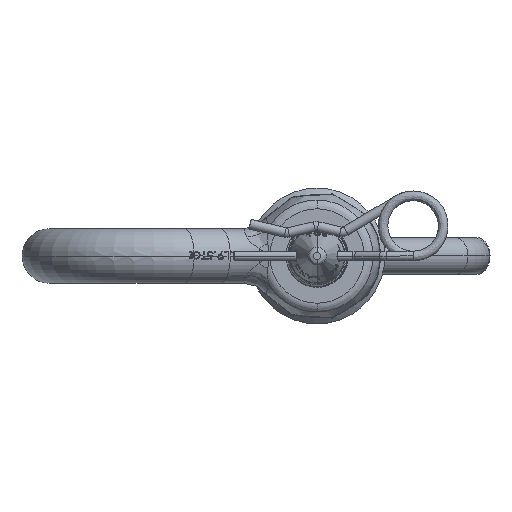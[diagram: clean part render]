
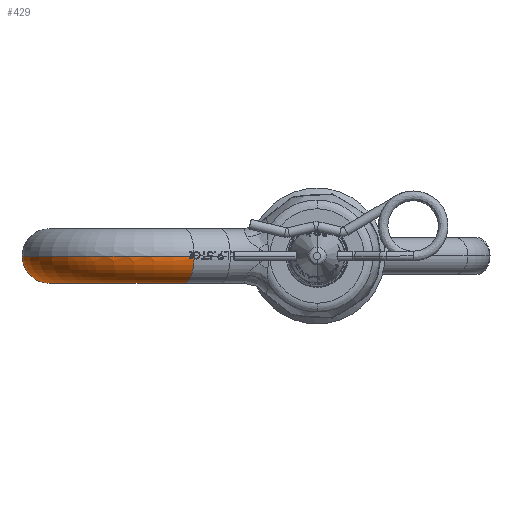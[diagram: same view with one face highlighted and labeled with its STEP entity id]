
A CAD part, left-side view. The second image highlights one B-rep face of the part: STEP entity #429.
In plain terms, the highlighted toroidal (fillet/blend) face has major radius 51.5 mm and minor radius 14 mm.
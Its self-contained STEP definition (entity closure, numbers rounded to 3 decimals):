
#429=ADVANCED_FACE('',(#1728),#1729,.T.);
#1728=FACE_OUTER_BOUND('',#5339,.T.);
#1729=TOROIDAL_SURFACE('',#5340,51.5,14.0);
#5339=EDGE_LOOP('',(#22639,#22640,#22641,#22642,#22643,#22644,#22645,#22646,#22647));
#5340=AXIS2_PLACEMENT_3D('',#22648,#22649,#22650);
#22639=ORIENTED_EDGE('',*,*,#27913,.T.);
#22640=ORIENTED_EDGE('',*,*,#28266,.T.);
#22641=ORIENTED_EDGE('',*,*,#28671,.T.);
#22642=ORIENTED_EDGE('',*,*,#28268,.T.);
#22643=ORIENTED_EDGE('',*,*,#28669,.T.);
#22644=ORIENTED_EDGE('',*,*,#27917,.T.);
#22645=ORIENTED_EDGE('',*,*,#28148,.T.);
#22646=ORIENTED_EDGE('',*,*,#27915,.T.);
#22647=ORIENTED_EDGE('',*,*,#28761,.F.);
#22648=CARTESIAN_POINT('',(0.0,0.0,0.0));
#22649=DIRECTION('',(0.0,0.0,-1.0));
#22650=DIRECTION('',(0.,1.0,0.0));
#27913=EDGE_CURVE('',#30585,#30586,#30587,.T.);
#27915=EDGE_CURVE('',#30590,#30588,#30591,.T.);
#27917=EDGE_CURVE('',#30594,#30592,#30595,.T.);
#28148=EDGE_CURVE('',#30592,#30590,#31047,.T.);
#28266=EDGE_CURVE('',#30586,#31271,#31273,.T.);
#28268=EDGE_CURVE('',#31277,#31274,#31278,.T.);
#28669=EDGE_CURVE('',#31274,#30594,#31902,.T.);
#28671=EDGE_CURVE('',#31271,#31277,#31904,.T.);
#28761=EDGE_CURVE('',#30585,#30588,#32018,.T.);
#30585=VERTEX_POINT('',#34979);
#30586=VERTEX_POINT('',#34980);
#30587=CIRCLE('',#34981,65.5);
#30588=VERTEX_POINT('',#34982);
#30590=VERTEX_POINT('',#34984);
#30591=CIRCLE('',#34985,37.5);
#30592=VERTEX_POINT('',#34986);
#30594=VERTEX_POINT('',#34988);
#30595=CIRCLE('',#34989,65.5);
#31047=CIRCLE('',#37215,14.0);
#31271=VERTEX_POINT('',#38249);
#31273=B_SPLINE_CURVE_WITH_KNOTS('',3,(#38252,#38253,#38254,#38255,#38256,#38257,#38258,#38259,#38260,#38261,#38262,#38263,#38264,#38265,#38266,#38267,#38268,#38269,#38270,#38271,#38272,#38273,#38274,#38275,#38276,#38277,#38278,#38279,#38280,#38281,#38282,#38283),.UNSPECIFIED.,.F.,.F.,(4,2,2,2,2,2,2,2,2,2,2,2,2,2,2,4),(-0.899,-0.895,-0.876,-0.858,-0.833,-0.784,-0.714,-0.642,-0.568,-0.499,-0.433,-0.355,-0.308,-0.284,-0.265,-0.246),.UNSPECIFIED.);
#31274=VERTEX_POINT('',#38284);
#31277=VERTEX_POINT('',#38288);
#31278=B_SPLINE_CURVE_WITH_KNOTS('',3,(#38289,#38290,#38291,#38292,#38293,#38294,#38295,#38296,#38297,#38298,#38299,#38300,#38301,#38302,#38303,#38304,#38305,#38306),.UNSPECIFIED.,.F.,.F.,(4,2,2,2,2,2,2,2,4),(0.168,0.173,0.186,0.199,0.217,0.253,0.311,0.36,0.383),.UNSPECIFIED.);
#31902=B_SPLINE_CURVE_WITH_KNOTS('',3,(#42048,#42049,#42050,#42051,#42052,#42053,#42054,#42055,#42056,#42057,#42058,#42059,#42060,#42061,#42062,#42063,#42064,#42065),.UNSPECIFIED.,.F.,.F.,(4,2,2,2,2,2,2,2,4),(0.168,0.173,0.186,0.199,0.217,0.253,0.311,0.36,0.383),.UNSPECIFIED.);
#31904=CIRCLE('',#42067,13.278);
#32018=CIRCLE('',#42504,14.0);
#34979=CARTESIAN_POINT('',(-61.262,-23.177,0.));
#34980=CARTESIAN_POINT('',(-61.301,-23.076,0.));
#34981=AXIS2_PLACEMENT_3D('',#66278,#66279,#66280);
#34982=CARTESIAN_POINT('',(-35.074,-13.27,0.0));
#34984=CARTESIAN_POINT('',(0.,37.5,0.));
#34985=AXIS2_PLACEMENT_3D('',#66284,#66285,#66286);
#34986=CARTESIAN_POINT('',(0.,65.5,0.));
#34988=CARTESIAN_POINT('',(-61.498,-22.544,0.));
#34989=AXIS2_PLACEMENT_3D('',#66290,#66291,#66292);
#37215=AXIS2_PLACEMENT_3D('',#66657,#66658,#66659);
#38249=CARTESIAN_POINT('',(-61.953,-21.014,-1.497));
#38252=CARTESIAN_POINT('',(-61.85,-21.,2.249));
#38253=CARTESIAN_POINT('',(-61.846,-21.012,2.251));
#38254=CARTESIAN_POINT('',(-61.842,-21.023,2.252));
#38255=CARTESIAN_POINT('',(-61.816,-21.095,2.259));
#38256=CARTESIAN_POINT('',(-61.795,-21.155,2.263));
#38257=CARTESIAN_POINT('',(-61.754,-21.274,2.263));
#38258=CARTESIAN_POINT('',(-61.735,-21.332,2.261));
#38259=CARTESIAN_POINT('',(-61.69,-21.468,2.249));
#38260=CARTESIAN_POINT('',(-61.665,-21.545,2.238));
#38261=CARTESIAN_POINT('',(-61.593,-21.774,2.189));
#38262=CARTESIAN_POINT('',(-61.548,-21.923,2.137));
#38263=CARTESIAN_POINT('',(-61.451,-22.269,1.966));
#38264=CARTESIAN_POINT('',(-61.405,-22.455,1.828));
#38265=CARTESIAN_POINT('',(-61.331,-22.775,1.482));
#38266=CARTESIAN_POINT('',(-61.305,-22.903,1.276));
#38267=CARTESIAN_POINT('',(-61.276,-23.077,0.823));
#38268=CARTESIAN_POINT('',(-61.274,-23.119,0.58));
#38269=CARTESIAN_POINT('',(-61.29,-23.108,0.105));
#38270=CARTESIAN_POINT('',(-61.307,-23.061,-0.122));
#38271=CARTESIAN_POINT('',(-61.36,-22.892,-0.537));
#38272=CARTESIAN_POINT('',(-61.394,-22.775,-0.723));
#38273=CARTESIAN_POINT('',(-61.487,-22.46,-1.074));
#38274=CARTESIAN_POINT('',(-61.547,-22.255,-1.225));
#38275=CARTESIAN_POINT('',(-61.66,-21.89,-1.396));
#38276=CARTESIAN_POINT('',(-61.706,-21.745,-1.443));
#38277=CARTESIAN_POINT('',(-61.779,-21.522,-1.488));
#38278=CARTESIAN_POINT('',(-61.804,-21.446,-1.498));
#38279=CARTESIAN_POINT('',(-61.849,-21.313,-1.508));
#38280=CARTESIAN_POINT('',(-61.869,-21.255,-1.51));
#38281=CARTESIAN_POINT('',(-61.91,-21.135,-1.508));
#38282=CARTESIAN_POINT('',(-61.932,-21.074,-1.504));
#38283=CARTESIAN_POINT('',(-61.953,-21.014,-1.497));
#38284=CARTESIAN_POINT('',(-61.933,-21.205,-1.021));
#38288=CARTESIAN_POINT('',(-62.,-21.012,-1.008));
#38289=CARTESIAN_POINT('',(-62.,-21.012,-1.008));
#38290=CARTESIAN_POINT('',(-61.994,-21.029,-1.01));
#38291=CARTESIAN_POINT('',(-61.988,-21.046,-1.012));
#38292=CARTESIAN_POINT('',(-61.968,-21.104,-1.018));
#38293=CARTESIAN_POINT('',(-61.954,-21.144,-1.02));
#38294=CARTESIAN_POINT('',(-61.926,-21.227,-1.022));
#38295=CARTESIAN_POINT('',(-61.911,-21.27,-1.02));
#38296=CARTESIAN_POINT('',(-61.877,-21.369,-1.012));
#38297=CARTESIAN_POINT('',(-61.859,-21.425,-1.005));
#38298=CARTESIAN_POINT('',(-61.803,-21.592,-0.971));
#38299=CARTESIAN_POINT('',(-61.768,-21.701,-0.934));
#38300=CARTESIAN_POINT('',(-61.681,-21.972,-0.804));
#38301=CARTESIAN_POINT('',(-61.633,-22.123,-0.691));
#38302=CARTESIAN_POINT('',(-61.561,-22.354,-0.429));
#38303=CARTESIAN_POINT('',(-61.534,-22.439,-0.291));
#38304=CARTESIAN_POINT('',(-61.505,-22.526,-0.069));
#38305=CARTESIAN_POINT('',(-61.497,-22.548,0.004));
#38306=CARTESIAN_POINT('',(-61.491,-22.564,0.079));
#42048=CARTESIAN_POINT('',(-62.,-21.012,-1.008));
#42049=CARTESIAN_POINT('',(-61.994,-21.029,-1.01));
#42050=CARTESIAN_POINT('',(-61.988,-21.046,-1.012));
#42051=CARTESIAN_POINT('',(-61.968,-21.104,-1.018));
#42052=CARTESIAN_POINT('',(-61.954,-21.144,-1.02));
#42053=CARTESIAN_POINT('',(-61.926,-21.227,-1.022));
#42054=CARTESIAN_POINT('',(-61.911,-21.27,-1.02));
#42055=CARTESIAN_POINT('',(-61.877,-21.369,-1.012));
#42056=CARTESIAN_POINT('',(-61.859,-21.425,-1.005));
#42057=CARTESIAN_POINT('',(-61.803,-21.592,-0.971));
#42058=CARTESIAN_POINT('',(-61.768,-21.701,-0.934));
#42059=CARTESIAN_POINT('',(-61.681,-21.972,-0.804));
#42060=CARTESIAN_POINT('',(-61.633,-22.123,-0.691));
#42061=CARTESIAN_POINT('',(-61.561,-22.354,-0.429));
#42062=CARTESIAN_POINT('',(-61.534,-22.439,-0.291));
#42063=CARTESIAN_POINT('',(-61.505,-22.526,-0.069));
#42064=CARTESIAN_POINT('',(-61.497,-22.548,0.004));
#42065=CARTESIAN_POINT('',(-61.491,-22.564,0.079));
#42067=AXIS2_PLACEMENT_3D('',#67220,#67221,#67222);
#42504=AXIS2_PLACEMENT_3D('',#67336,#67337,#67338);
#66278=CARTESIAN_POINT('',(0.0,0.0,0.));
#66279=DIRECTION('',(0.0,0.0,-1.0));
#66280=DIRECTION('',(-1.0,0.0,0.0));
#66284=CARTESIAN_POINT('',(0.0,0.0,0.));
#66285=DIRECTION('',(0.0,-0.0,1.0));
#66286=DIRECTION('',(0.,1.0,0.0));
#66290=CARTESIAN_POINT('',(0.0,0.0,0.));
#66291=DIRECTION('',(0.0,0.0,-1.0));
#66292=DIRECTION('',(-1.0,0.0,0.0));
#66657=CARTESIAN_POINT('',(0.,51.5,0.0));
#66658=DIRECTION('',(-1.0,0.,0.0));
#66659=DIRECTION('',(0.,1.0,0.0));
#67220=CARTESIAN_POINT('',(-48.761,-21.009,0.017));
#67221=DIRECTION('',(0.,1.,-0.004));
#67222=DIRECTION('',(-0.997,0.,-0.077));
#67336=CARTESIAN_POINT('',(-48.168,-18.224,0.0));
#67337=DIRECTION('',(0.354,-0.935,0.0));
#67338=DIRECTION('',(0.935,0.354,0.0));
